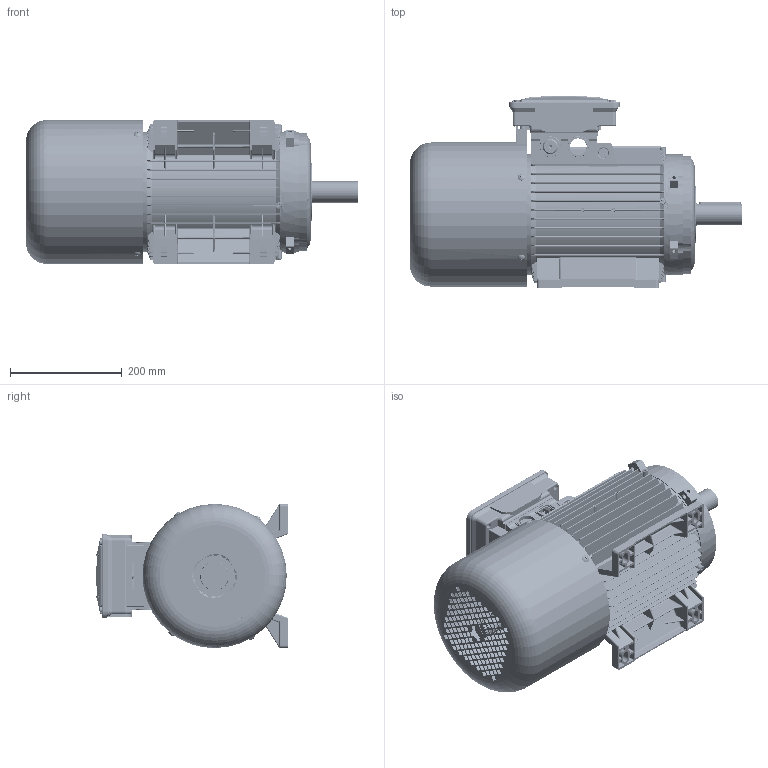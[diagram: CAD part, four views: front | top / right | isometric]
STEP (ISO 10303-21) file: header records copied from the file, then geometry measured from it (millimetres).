
FILE_DESCRIPTION (( 'STEP AP214' ), '1' );
FILE_NAME ('M14JA0010.STEP', '2019-04-13T07:47:34', ( '' ), ( '' ), 'SwSTEP 2.0', 'SolidWorks 2018', '' );
FILE_SCHEMA (( 'AUTOMOTIVE_DESIGN' ));
Length unit declared in the file: millimetre
Products named in the file (17): Vite M5x20; M14JA0010; Coperchio Scatola Morsettiera BA 132 - DGBR0002; Guarnizione Coperchio Morsettiera Doppia Scatola BA 132 - DGBS0102; Scatola BA 132 - Completa; Piastra stringi Pipetta BA 132 - DGBA0210 bis; Guarnizione Basetta BA 132 - DGBU0202; Vite Autofilettante Testa Bombata 4,8x9,5; Pipetta passafilo; Scatola per Morsettiera BA 132 - DGBQ0102; Vite testa rotonda M6; Chiavetta 132; Albero BM 132 M; Cuffia BM-SM 132 - ITALGARD; Scudo Lato Freno P1 BM 132; Scudo Lato Comando B3 BA 132; Carcassa 132 M B3
Assembly tree (23 placements, depth 3):
  M14JA0010
    Carcassa 132 M B3
    Scudo Lato Comando B3 BA 132
    Scudo Lato Freno P1 BM 132
    Cuffia BM-SM 132 - ITALGARD
    Albero BM 132 M
    Chiavetta 132
    Vite testa rotonda M6  x4
    Scatola BA 132 - Completa
      Scatola per Morsettiera BA 132 - DGBQ0102
      Pipetta passafilo  x2
      Vite Autofilettante Testa Bombata 4,8x9,5
      Guarnizione Basetta BA 132 - DGBU0202
      Piastra stringi Pipetta BA 132 - DGBA0210 bis
      Guarnizione Coperchio Morsettiera Doppia Scatola BA 132 - DGBS0102
      Coperchio Scatola Morsettiera BA 132 - DGBR0002
      Vite M5x20  x4
Bounding box: 594 x 344.89 x 258 mm (x, y, z)
Volume: 4336975.1 mm3; surface area: 1853522.1 mm2
Topology: 22 solids, 22 shells, 5277 faces, 14195 edges, 9015 vertices
Faces by surface type: cylinder 2354, plane 1727, bspline 473, cone 371, torus 328, sphere 24
Entity records: 192516 total; most frequent: CARTESIAN_POINT 76842, ORIENTED_EDGE 25122, DIRECTION 22556, EDGE_CURVE 12561, AXIS2_PLACEMENT_3D 8221, VERTEX_POINT 8013, LINE 6114, VECTOR 6114
